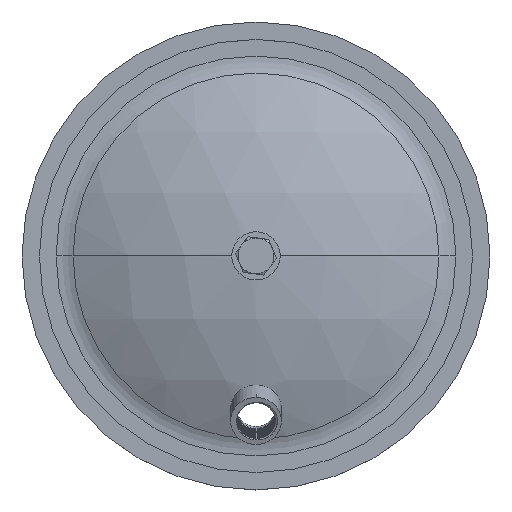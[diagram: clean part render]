
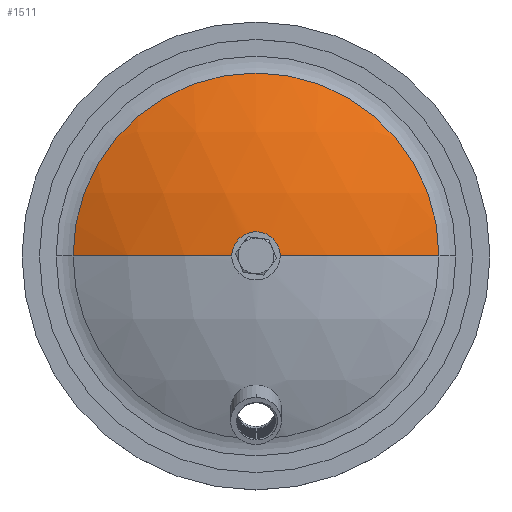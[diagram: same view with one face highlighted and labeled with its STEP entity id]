
A CAD part, top view. The second image highlights one B-rep face of the part: STEP entity #1511.
In plain terms, the highlighted spherical face has radius 274.123 mm.
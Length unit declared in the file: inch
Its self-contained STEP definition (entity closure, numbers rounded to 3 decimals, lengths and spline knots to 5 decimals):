
#152 = SPHERICAL_SURFACE ( 'NONE', #4064, 10.79226 ) ;
#955 = CARTESIAN_POINT ( 'NONE',  ( -0.15017, 1.12635, -0.17921 ) ) ;
#987 = CARTESIAN_POINT ( 'NONE',  ( 0.52483, 1.12635, -0.17921 ) ) ;
#1001 = CIRCLE ( 'NONE', #4188, 10.79226 ) ;
#1100 = CIRCLE ( 'NONE', #4235, 0.3375 ) ;
#1165 = CARTESIAN_POINT ( 'NONE',  ( 4.92257, 1.12635, -1.26824 ) ) ;
#1266 = CIRCLE ( 'NONE', #4259, 10.79226 ) ;
#1310 = ORIENTED_EDGE ( 'NONE', *, *, #1370, .T. ) ;
#1345 = EDGE_CURVE ( 'NONE', #1902, #3384, #1551, .T. ) ;
#1355 = EDGE_CURVE ( 'NONE', #3384, #1939, #1266, .T. ) ;
#1370 = EDGE_CURVE ( 'NONE', #1939, #1943, #1100, .T. ) ;
#1382 = EDGE_CURVE ( 'NONE', #1902, #1943, #1001, .T. ) ;
#1511 = ADVANCED_FACE ( 'NONE', ( #3817 ), #152, .T. ) ;
#1551 = CIRCLE ( 'NONE', #4032, 4.73524 ) ;
#1902 = VERTEX_POINT ( 'NONE', #1165 ) ;
#1939 = VERTEX_POINT ( 'NONE', #955 ) ;
#1943 = VERTEX_POINT ( 'NONE', #987 ) ;
#2137 = EDGE_LOOP ( 'NONE', ( #3748, #3521, #1310, #3261 ) ) ;
#2162 = DIRECTION ( 'NONE',  ( 1., 0., 0. ) ) ;
#2171 = DIRECTION ( 'NONE',  ( 0., 1., 0. ) ) ;
#2184 = CARTESIAN_POINT ( 'NONE',  ( -4.54791, 1.12635, -1.26824 ) ) ;
#2191 = CARTESIAN_POINT ( 'NONE',  ( 0.18733, 1.12635, -10.96619 ) ) ;
#2943 = DIRECTION ( 'NONE',  ( 0., 0., -1. ) ) ;
#2948 = DIRECTION ( 'NONE',  ( 0., -1., 0. ) ) ;
#2954 = CARTESIAN_POINT ( 'NONE',  ( 0.18733, 1.12635, -10.96619 ) ) ;
#3042 = DIRECTION ( 'NONE',  ( -1., 0., 0. ) ) ;
#3043 = DIRECTION ( 'NONE',  ( 0., 0., -1. ) ) ;
#3046 = CARTESIAN_POINT ( 'NONE',  ( 0.18733, 1.12635, -0.17921 ) ) ;
#3130 = DIRECTION ( 'NONE',  ( -1., 0., 0. ) ) ;
#3133 = DIRECTION ( 'NONE',  ( 0., 1., 0. ) ) ;
#3136 = CARTESIAN_POINT ( 'NONE',  ( 0.18733, 1.12635, -10.96619 ) ) ;
#3183 = DIRECTION ( 'NONE',  ( -1., 0., 0. ) ) ;
#3184 = DIRECTION ( 'NONE',  ( 0., 0., 1. ) ) ;
#3190 = CARTESIAN_POINT ( 'NONE',  ( 0.18733, 1.12635, -1.26824 ) ) ;
#3261 = ORIENTED_EDGE ( 'NONE', *, *, #1382, .F. ) ;
#3384 = VERTEX_POINT ( 'NONE', #2184 ) ;
#3521 = ORIENTED_EDGE ( 'NONE', *, *, #1355, .T. ) ;
#3748 = ORIENTED_EDGE ( 'NONE', *, *, #1345, .T. ) ;
#3817 = FACE_OUTER_BOUND ( 'NONE', #2137, .T. ) ;
#4032 = AXIS2_PLACEMENT_3D ( 'NONE', #3190, #3184, #3183 ) ;
#4064 = AXIS2_PLACEMENT_3D ( 'NONE', #2191, #2171, #2162 ) ;
#4188 = AXIS2_PLACEMENT_3D ( 'NONE', #2954, #2948, #2943 ) ;
#4235 = AXIS2_PLACEMENT_3D ( 'NONE', #3046, #3043, #3042 ) ;
#4259 = AXIS2_PLACEMENT_3D ( 'NONE', #3136, #3133, #3130 ) ;
